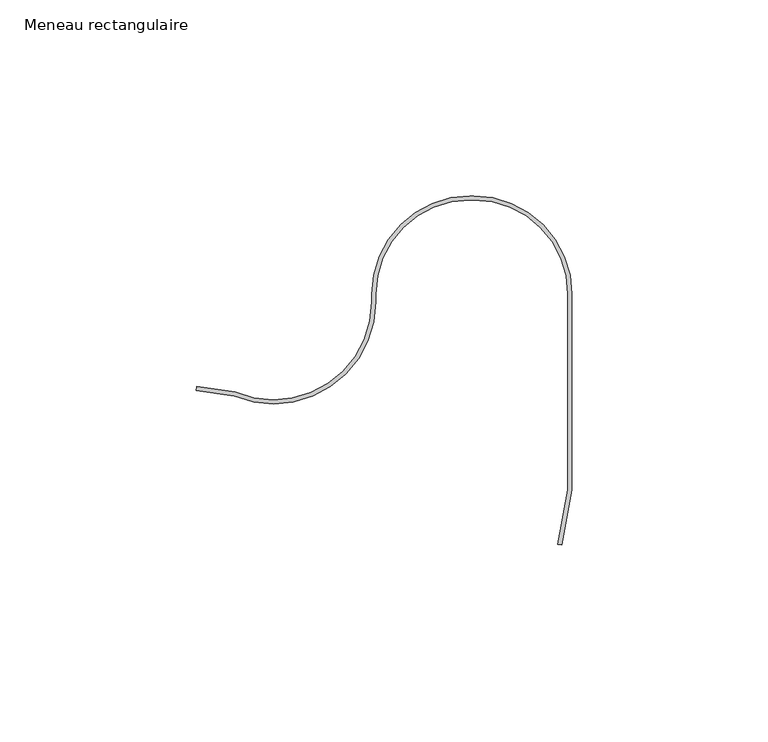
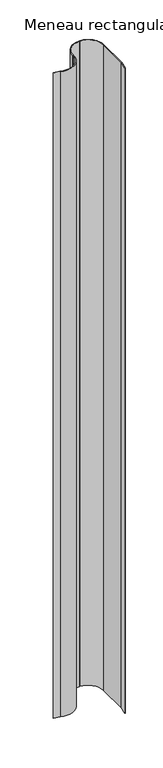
"""IFC4 building model written with IfcOpenShell, lengths in millimetres: member geometry, Meneau rectangulaire : Jonction contre mur Gauche V."""

from ifc_helpers import new_model, si_unit, point, frame, frame_2d, origin, place, context, project, spatial, polyline, circle_curve, trimmed, segment, composite_curve, outline, extrude, source, transform, mapped, element, save


def meneau_rectangulaire_f8511e98(model_context):
    return source(origin(), model_context, "Body", "SweptSolid", [
        extrude(outline(composite_curve([segment(polyline([(-1.0, -25.3470857), (-1.0, 24.6529143)]), True, "CONTINUOUS"), segment(trimmed(circle_curve(frame_2d((-25.0, 24.6529143)), 24.0), [point((-1.0, 24.6529143))], [point((-25.0, 48.6529143))], True, "CARTESIAN"), True, "CONTINUOUS"), segment(polyline([(-25.0, 48.6529143), (-26.0, 48.6529143)]), True, "CONTINUOUS"), segment(trimmed(circle_curve(frame_2d((-26.0, 24.6529143)), 24.0), [point((-26.0, 48.6529143))], [point((-50.0, 24.6529143))], True, "CARTESIAN"), True, "CONTINUOUS"), segment(polyline([(-50.0, 24.6529143), (-50.0, 22.6317013)]), True, "CONTINUOUS"), segment(trimmed(circle_curve(frame_2d((-76.0, 22.6317013)), 26.0), [point((-50.0, 22.6317013))], [point((-86.0341553, -1.3540388))], False, "CARTESIAN"), True, "CONTINUOUS"), segment(polyline([(-86.0341553, -1.3540388), (-95.8078149, 0.0195595), (-95.6686418, 1.0098276), (-85.7659612, -0.3819034)]), True, "CONTINUOUS"), segment(trimmed(circle_curve(frame_2d((-76.0, 22.6317013)), 25.0), [point((-85.7659612, -0.3819034))], [point((-51.0, 22.6317013))], True, "CARTESIAN"), True, "CONTINUOUS"), segment(polyline([(-51.0, 22.6317013), (-51.0, 24.6529143)]), True, "CONTINUOUS"), segment(trimmed(circle_curve(frame_2d((-26.0, 24.6529143)), 25.0), [point((-51.0, 24.6529143))], [point((-26.0, 49.6529143))], False, "CARTESIAN"), True, "CONTINUOUS"), segment(polyline([(-26.0, 49.6529143), (-25.0, 49.6529143)]), True, "CONTINUOUS"), segment(trimmed(circle_curve(frame_2d((-25.0, 24.6529143)), 25.0), [point((-25.0, 49.6529143))], [point((0.0, 24.6529143))], False, "CARTESIAN"), True, "CONTINUOUS"), segment(polyline([(0.0, 24.6529143), (0.0, -25.3470857), (-2.6384309, -39.3947769), (-3.6043568, -39.2133572), (-1.0, -25.3470857)]), True, "CONTINUOUS")], self_intersect=False)), frame((0.0, 0.0, -1102.1451617), z_axis=(0.0, 0.0, 1.0), x_axis=(1.0, 0.0, 0.0)), (0.0, 0.0, 1.0), 1102.1451617),
    ])


if __name__ == "__main__":
    model = new_model("IFC4")
    model_context = context("Model", 3, world=origin())
    ifc_project = project(units=[si_unit("LENGTHUNIT", "METRE", prefix="MILLI")], contexts=[model_context])
    site = spatial("IfcSite", under=ifc_project)
    building = spatial("IfcBuilding", under=site)
    placement = place(None, origin())
    meneau_rectangulaire_shape = meneau_rectangulaire_f8511e98(model_context)
    element("IfcMember", 1, ObjectType="Meneau rectangulaire : Jonction contre mur Gauche V", at=placement, inside=building, context=model_context, shape_type="MappedRepresentation", body=[
        mapped(meneau_rectangulaire_shape, transform((0.0, 0.0, 0.0), x_axis=(1.0, 0.0, 0.0), y_axis=(0.0, 1.0, 0.0), z_axis=(0.0, 0.0, 1.0))),
    ])
    save(model, "model.ifc")
